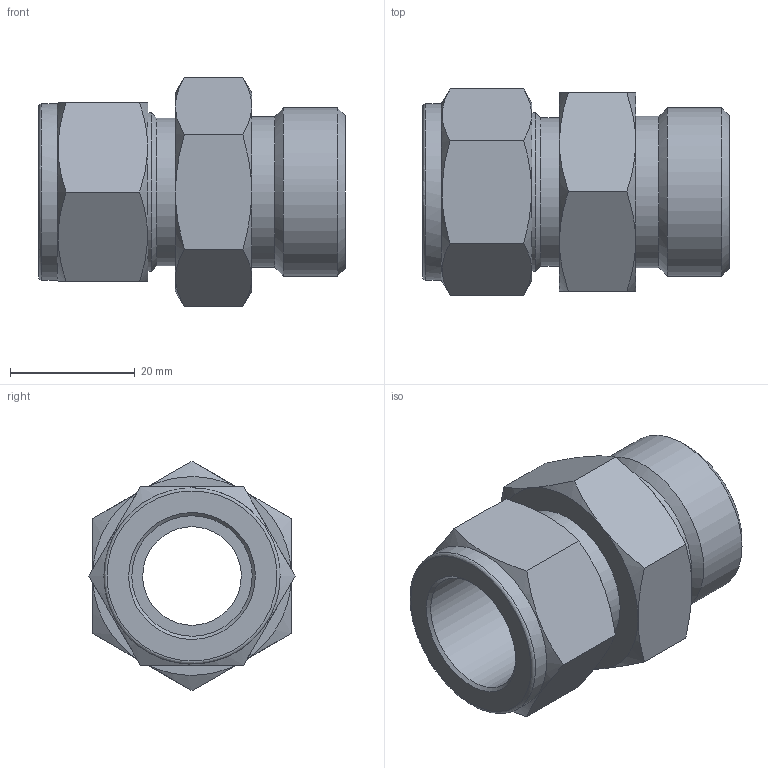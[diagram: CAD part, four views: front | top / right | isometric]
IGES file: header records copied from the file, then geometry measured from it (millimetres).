
Global section: file name: SSMC-12-12U; native system: Autodesk Inventor 2016; preprocessor: unknown; author: DESIGNPC2; date: 20160123.164710; units: millimetre
Bounding box: 49.09 x 33 x 36.72 mm (x, y, z)
Volume: 20774.5 mm3; surface area: 9050.9 mm2
Topology: 1 solids, 1 shells, 45 faces, 114 edges, 75 vertices
Faces by surface type: bspline 45
